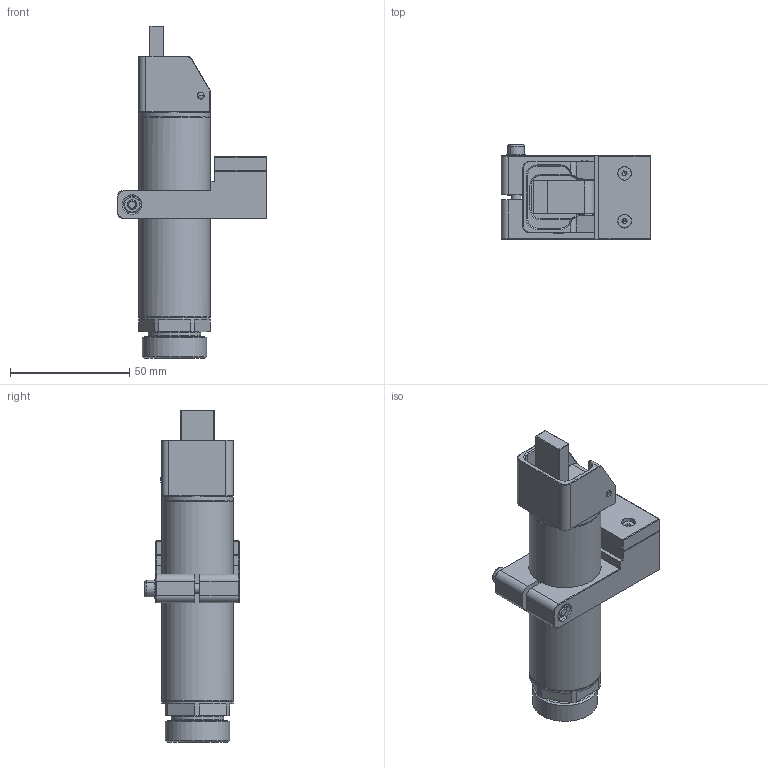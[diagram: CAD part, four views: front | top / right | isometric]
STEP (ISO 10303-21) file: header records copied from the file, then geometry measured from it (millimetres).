
FILE_DESCRIPTION(/* description */ (''),/* implementation_level */ '2;1');
FILE_NAME(/* name */ 'GFS30-90G',/* time_stamp */ '2023-10-09T17:23:43+08:00',/* author */ (''),/* organization */ (''),/* preprocessor_version */ 'ST-DEVELOPER v9',/* originating_system */ 'UGS - NX 4.0',/* authorisation */ '');
FILE_SCHEMA (('AUTOMOTIVE_DESIGN { 1 0 10303 214 1 1 1 1 }'));
Length unit declared in the file: millimetre
Products named in the file (1): AdmiAA8C9869
Bounding box: 62.7 x 39.5 x 139.2 mm (x, y, z)
Volume: 109221.5 mm3; surface area: 28223.3 mm2
Topology: 3 solids, 8 shells, 362 faces, 863 edges, 519 vertices
Faces by surface type: plane 220, cone 66, cylinder 59, torus 9, bspline 4, sphere 4
Full cylindrical faces by diameter (mm): 2.937 x1, 4 x2, 8.8 x1, 22 x1, 27 x1, 30 x3
Entity records: 12005 total; most frequent: CARTESIAN_POINT 2931, ORIENTED_EDGE 1854, DIRECTION 1717, EDGE_CURVE 927, VERTEX_POINT 725, AXIS2_PLACEMENT_3D 597, LINE 523, VECTOR 523
